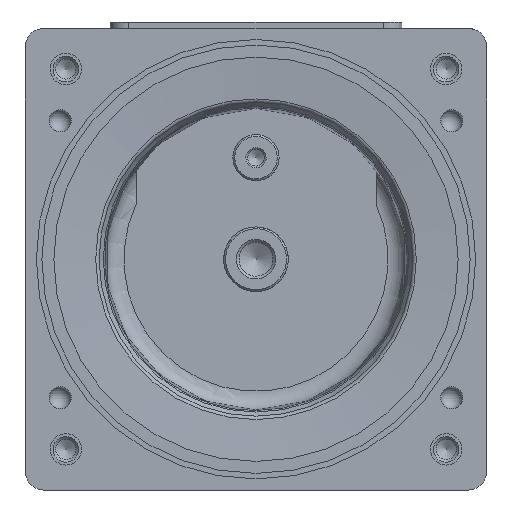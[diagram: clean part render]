
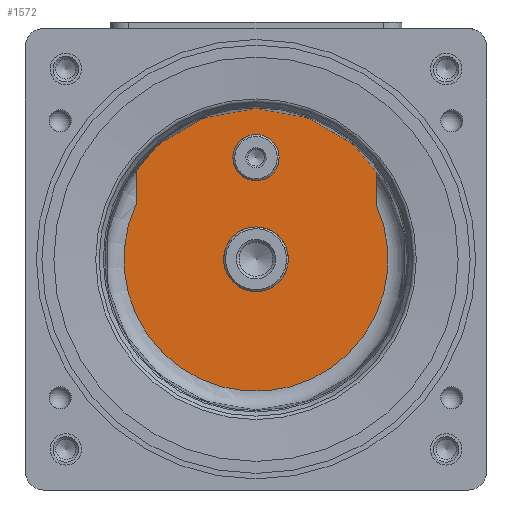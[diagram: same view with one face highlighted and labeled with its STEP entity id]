
A CAD part, front view. The second image highlights one B-rep face of the part: STEP entity #1572.
In plain terms, the highlighted planar face has unit normal (0, -1, 0).
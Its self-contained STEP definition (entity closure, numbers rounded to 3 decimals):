
#1572=ADVANCED_FACE('',(#3935,#3937,#3939),#3941,.T.);
#3935=FACE_BOUND('',#3936,.T.);
#3936=EDGE_LOOP('',(#7592,#7593,#7594,#7595));
#3937=FACE_BOUND('',#3938,.T.);
#3938=EDGE_LOOP('',(#7596,#7597,#7598));
#3939=FACE_BOUND('',#3940,.T.);
#3940=EDGE_LOOP('',(#7599));
#3941=PLANE('',#3942);
#3942=AXIS2_PLACEMENT_3D('',#3943,#3944,#3945);
#3943=CARTESIAN_POINT('',(-81.5,224.,0.));
#3944=DIRECTION('',(0.,-1.,-0.));
#3945=DIRECTION('',(0.,0.,-1.));
#7592=ORIENTED_EDGE('',*,*,#8460,.T.);
#7593=ORIENTED_EDGE('',*,*,#8661,.T.);
#7594=ORIENTED_EDGE('',*,*,#8662,.T.);
#7595=ORIENTED_EDGE('',*,*,#8663,.F.);
#7596=ORIENTED_EDGE('',*,*,#8403,.T.);
#7597=ORIENTED_EDGE('',*,*,#8402,.T.);
#7598=ORIENTED_EDGE('',*,*,#8404,.T.);
#7599=ORIENTED_EDGE('',*,*,#8436,.T.);
#8402=EDGE_CURVE('',#9322,#9323,#9324,.T.);
#8403=EDGE_CURVE('',#9325,#9322,#9326,.T.);
#8404=EDGE_CURVE('',#9323,#9325,#9327,.T.);
#8436=EDGE_CURVE('',#9389,#9389,#9390,.T.);
#8460=EDGE_CURVE('',#9425,#9435,#9437,.T.);
#8661=EDGE_CURVE('',#9435,#9830,#9831,.T.);
#8662=EDGE_CURVE('',#9830,#9832,#9833,.T.);
#8663=EDGE_CURVE('',#9425,#9832,#9834,.T.);
#9322=VERTEX_POINT('',#13412);
#9323=VERTEX_POINT('',#13413);
#9324=CIRCLE('',#13414,9.);
#9325=VERTEX_POINT('',#13418);
#9326=CIRCLE('',#13419,9.);
#9327=CIRCLE('',#13423,9.);
#9389=VERTEX_POINT('',#13727);
#9390=CIRCLE('',#13728,17.5);
#9425=VERTEX_POINT('',#14250);
#9435=VERTEX_POINT('',#14366);
#9437=CIRCLE('',#14393,71.54);
#9830=VERTEX_POINT('',#16884);
#9831=LINE('',#16885,#16886);
#9832=VERTEX_POINT('',#16888);
#9833=LINE('',#16889,#16890);
#9834=LINE('',#16892,#16893);
#13412=CARTESIAN_POINT('',(-6.364,224.,61.364));
#13413=CARTESIAN_POINT('',(0.,224.,46.));
#13414=AXIS2_PLACEMENT_3D('',#13415,#13416,#13417);
#13415=CARTESIAN_POINT('',(0.,224.,55.));
#13416=DIRECTION('',(0.,1.,0.));
#13417=DIRECTION('',(-0.707,0.,0.707));
#13418=CARTESIAN_POINT('',(-9.,224.,55.));
#13419=AXIS2_PLACEMENT_3D('',#13420,#13421,#13422);
#13420=CARTESIAN_POINT('',(0.,224.,55.));
#13421=DIRECTION('',(0.,1.,0.));
#13422=DIRECTION('',(-1.,0.,0.));
#13423=AXIS2_PLACEMENT_3D('',#13424,#13425,#13426);
#13424=CARTESIAN_POINT('',(0.,224.,55.));
#13425=DIRECTION('',(0.,1.,0.));
#13426=DIRECTION('',(0.,0.,-1.));
#13727=CARTESIAN_POINT('',(0.,224.,17.5));
#13728=AXIS2_PLACEMENT_3D('',#13729,#13730,#13731);
#13729=CARTESIAN_POINT('',(0.,224.,0.));
#13730=DIRECTION('',(0.,1.,0.));
#13731=DIRECTION('',(0.,0.,1.));
#14250=CARTESIAN_POINT('',(-65.,224.,29.882));
#14366=CARTESIAN_POINT('',(65.,224.,29.882));
#14393=AXIS2_PLACEMENT_3D('',#14394,#14395,#14396);
#14394=CARTESIAN_POINT('',(0.,224.,0.));
#14395=DIRECTION('',(0.,-1.,0.));
#14396=DIRECTION('',(-0.909,0.,0.418));
#16884=CARTESIAN_POINT('',(65.,224.,108.5));
#16885=CARTESIAN_POINT('',(65.,224.,29.882));
#16886=VECTOR('',#16887,1.);
#16887=DIRECTION('',(0.,0.,1.));
#16888=CARTESIAN_POINT('',(-65.,224.,108.5));
#16889=CARTESIAN_POINT('',(65.,224.,108.5));
#16890=VECTOR('',#16891,1.);
#16891=DIRECTION('',(-1.,0.,0.));
#16892=CARTESIAN_POINT('',(-65.,224.,29.882));
#16893=VECTOR('',#16894,1.);
#16894=DIRECTION('',(0.,0.,1.));
